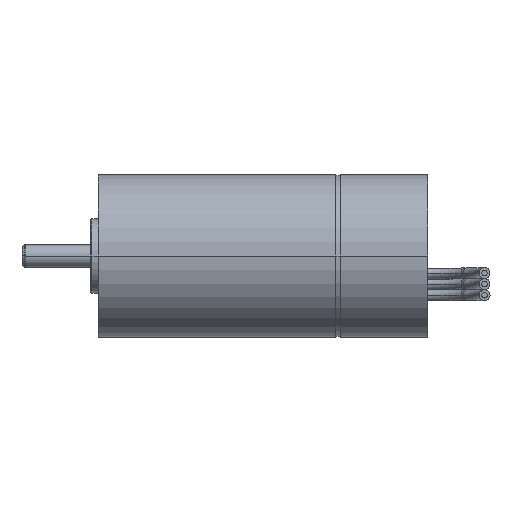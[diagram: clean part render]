
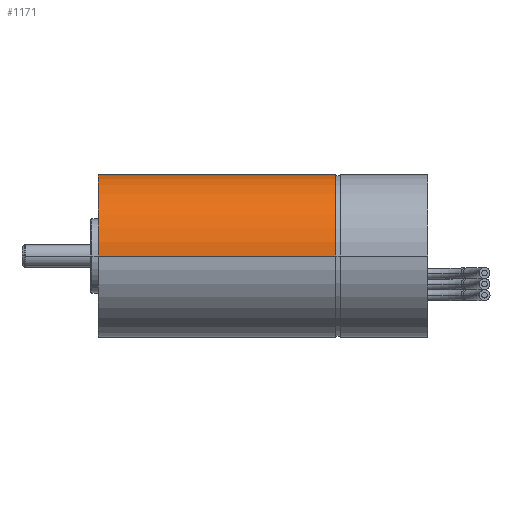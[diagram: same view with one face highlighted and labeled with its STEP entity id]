
A CAD part, front view. The second image highlights one B-rep face of the part: STEP entity #1171.
In plain terms, the highlighted cylindrical face has radius 11 mm (diameter 22 mm), a partial arc.
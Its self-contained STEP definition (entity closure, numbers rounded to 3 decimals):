
#57=CARTESIAN_POINT('',(32.1,0.,0.));
#58=DIRECTION('',(-1.,0.,0.));
#59=DIRECTION('',(0.,-1.,0.));
#60=AXIS2_PLACEMENT_3D('',#57,#58,#59);
#77=DIRECTION('',(-1.,0.,0.));
#78=VECTOR('',#77,32.1);
#79=CARTESIAN_POINT('',(32.1,11.,0.));
#80=LINE('',#79,#78);
#81=DIRECTION('',(1.,0.,0.));
#82=VECTOR('',#81,32.1);
#83=CARTESIAN_POINT('',(0.,-11.,0.));
#84=LINE('',#83,#82);
#90=CARTESIAN_POINT('',(0.,0.,0.));
#91=DIRECTION('',(1.,0.,0.));
#92=DIRECTION('',(0.,1.,0.));
#93=AXIS2_PLACEMENT_3D('',#90,#91,#92);
#841=CARTESIAN_POINT('',(32.1,-11.,0.));
#842=CARTESIAN_POINT('',(32.1,11.,0.));
#843=VERTEX_POINT('',#841);
#844=VERTEX_POINT('',#842);
#861=CARTESIAN_POINT('',(0.,11.,0.));
#862=VERTEX_POINT('',#861);
#863=CARTESIAN_POINT('',(0.,-11.,0.));
#864=VERTEX_POINT('',#863);
#1157=CARTESIAN_POINT('',(0.,0.,0.));
#1158=DIRECTION('',(1.,0.,0.));
#1159=DIRECTION('',(0.,-1.,0.));
#1160=AXIS2_PLACEMENT_3D('',#1157,#1158,#1159);
#1161=CYLINDRICAL_SURFACE('',#1160,11.);
#1162=ORIENTED_EDGE('',*,*,#1146,.F.);
#1164=ORIENTED_EDGE('',*,*,#1163,.F.);
#1166=ORIENTED_EDGE('',*,*,#1165,.F.);
#1168=ORIENTED_EDGE('',*,*,#1167,.F.);
#1169=EDGE_LOOP('',(#1162,#1164,#1166,#1168));
#1170=FACE_OUTER_BOUND('',#1169,.F.);
#1171=ADVANCED_FACE('',(#1170),#1161,.T.);
#61=CIRCLE('',#60,11.);
#94=CIRCLE('',#93,11.);
#1146=EDGE_CURVE('',#843,#844,#61,.T.);
#1163=EDGE_CURVE('',#864,#843,#84,.T.);
#1165=EDGE_CURVE('',#862,#864,#94,.T.);
#1167=EDGE_CURVE('',#844,#862,#80,.T.);
